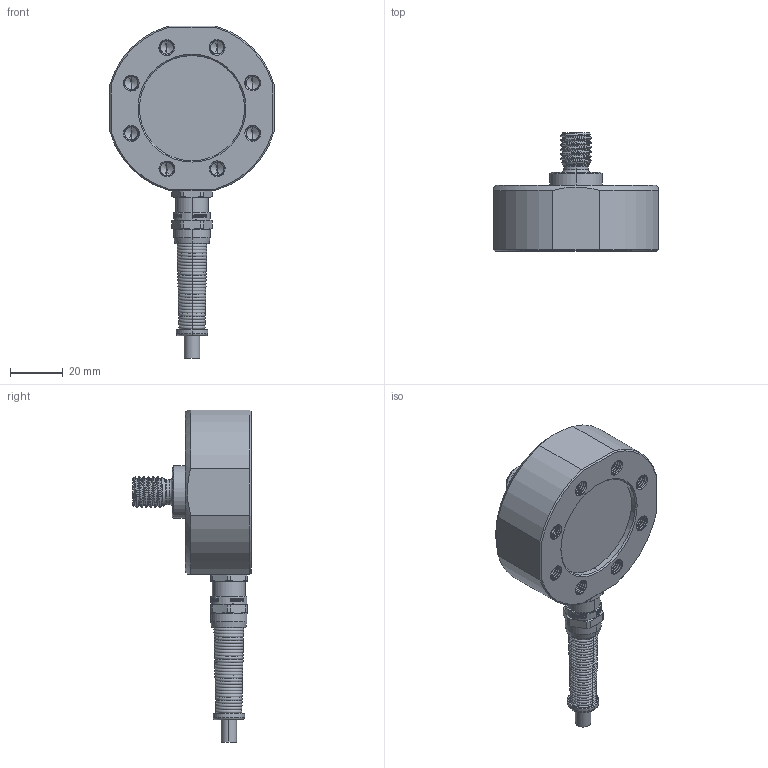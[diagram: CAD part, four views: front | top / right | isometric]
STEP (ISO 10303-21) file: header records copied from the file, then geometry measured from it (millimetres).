
FILE_DESCRIPTION (( 'STEP AP203' ), '1' );
FILE_NAME ('B-2023-0007-00084_KM65z_10kN.STEP', '2023-05-23T08:30:27', ( '' ), ( '' ), 'SwSTEP 2.0', 'SolidWorks 2022', '' );
FILE_SCHEMA (( 'CONFIG_CONTROL_DESIGN' ));
Length unit declared in the file: millimetre
Products named in the file (5): E-2023-0007-00079_Rohling KM65z M12 K-Modell; E-2023-0007-00080_Deckel KM65z; NT-2023-00234_KS HSK-M-Flex-EMV PG7; 3-6,5; GL5; B-2023-0007-00084_KM65z_10kN; NT-2018-00037_2x2x0,14 3,1m konfektioniert
Assembly tree (4 placements, depth 2):
  B-2023-0007-00084_KM65z_10kN
    E-2023-0007-00079_Rohling KM65z M12 K-Modell
    E-2023-0007-00080_Deckel KM65z
    NT-2023-00234_KS HSK-M-Flex-EMV PG7; 3-6,5; GL5
    NT-2018-00037_2x2x0,14 3,1m konfektioniert
Bounding box: 62.5 x 45 x 126.25 mm (x, y, z)
Volume: 80137.9 mm3; surface area: 28102.2 mm2
Topology: 10 solids, 14 shells, 919 faces, 2366 edges, 1506 vertices
Faces by surface type: plane 368, cylinder 320, cone 118, torus 86, bspline 27
Entity records: 47317 total; most frequent: CARTESIAN_POINT 25480, ORIENTED_EDGE 4696, DIRECTION 4333, EDGE_CURVE 2348, AXIS2_PLACEMENT_3D 1652, VERTEX_POINT 1506, VECTOR 1029, LINE 1029
